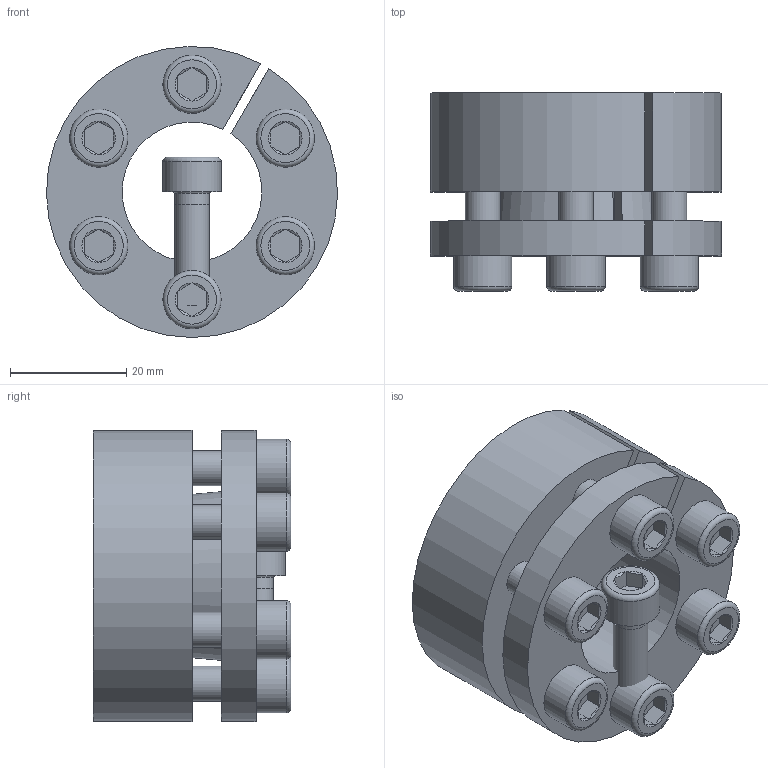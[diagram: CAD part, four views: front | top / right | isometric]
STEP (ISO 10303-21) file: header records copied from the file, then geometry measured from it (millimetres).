
FILE_DESCRIPTION( ( 'Unknown' ), '1' );
FILE_NAME( 'C:/Dokumente und Einstellungen/Sven/Desktop/homepage/cad - homepage/KBS13/KBS 13 - 24 x 50.stp', 'Unknown', ( 'Unknown' ), ( 'Unknown' ), 'XStep 1.0', 'Unknown', ' ' );
FILE_SCHEMA( ( 'automotive_design' ) );
Length unit declared in the file: millimetre
Products named in the file (3): Assem1; KBS 13 - 24 x 50; ISO EN DIN 4762 M6x20
Bounding box: 49.99 x 34 x 49.99 mm (x, y, z)
Volume: 69031.7 mm3; surface area: 33895.7 mm2
Topology: 9 solids, 9 shells, 223 faces, 457 edges, 280 vertices
Faces by surface type: plane 98, cylinder 58, cone 53, torus 14
Full cylindrical faces by diameter (mm): 5 x7, 6 x38, 10 x7
Entity records: 1618 total; most frequent: CARTESIAN_POINT 271, DIRECTION 244, ORIENTED_EDGE 178, AXIS2_PLACEMENT_3D 108, EDGE_LOOP 96, EDGE_CURVE 89, FACE_OUTER_BOUND 67, VERTEX_POINT 67
